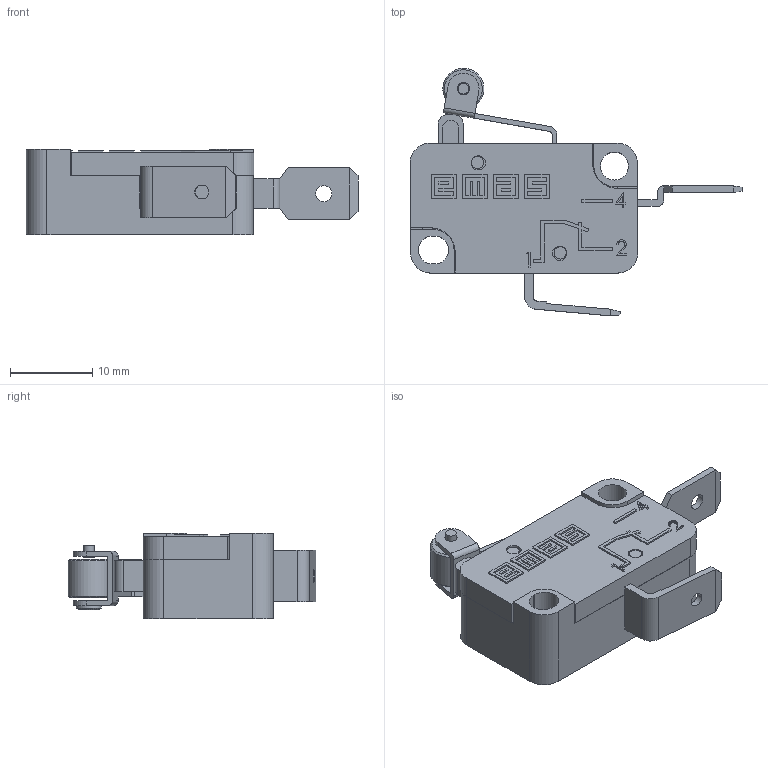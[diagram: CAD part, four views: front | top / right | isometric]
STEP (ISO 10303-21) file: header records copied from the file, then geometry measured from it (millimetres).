
FILE_DESCRIPTION((''),'2; 1');
FILE_NAME('','2026-03-27T16:20:38',(''),(''),'CST STEP Exporter V1.0','Unknown','');
FILE_SCHEMA(('CONFIG_CONTROL_DESIGN'));
Length unit declared in the file: metre
Assembly tree (11 placements, depth 2):
  (unnamed)
    (unnamed)
    (unnamed)
    (unnamed)
    (unnamed)
    (unnamed)
    (unnamed)
    (unnamed)
    (unnamed)
    (unnamed)
    (unnamed)
    (unnamed)
Bounding box: 40.35 x 30.09 x 10.4 mm (x, y, z)
Surface area: 7061.4 mm2 (no closed solid volume)
Topology: 0 solids, 11 shells, 287 faces, 1045 edges, 783 vertices
Faces by surface type: plane 237, cylinder 41, extrusion 6, cone 3
Full cylindrical faces by diameter (mm): 1.3 x1, 1.5 x3, 1.7 x1, 1.75 x2, 1.95 x1, 3 x1, 3.4 x1, 5 x1
Entity records: 13639 total; most frequent: CARTESIAN_POINT 2286, DIRECTION 1755, ORIENTED_EDGE 1714, EDGE_CURVE 1028, VECTOR 845, LINE 839, VERTEX_POINT 780, AXIS2_PLACEMENT_3D 455
